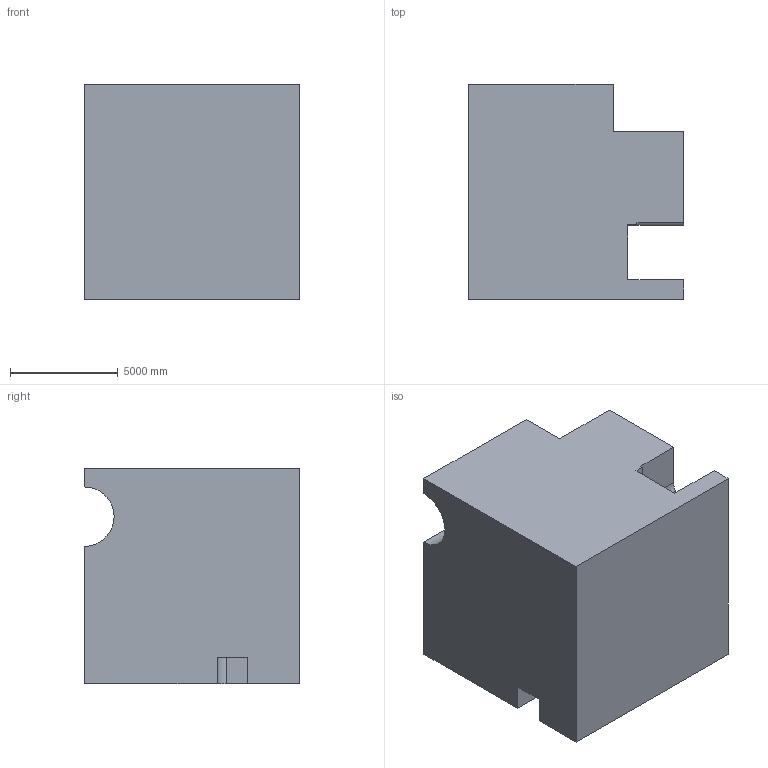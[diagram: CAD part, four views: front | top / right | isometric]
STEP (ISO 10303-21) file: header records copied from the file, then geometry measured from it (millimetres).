
FILE_DESCRIPTION (( 'STEP AP203' ), '1' );
FILE_NAME ('515.STEP', '2022-07-29T11:36:14', ( 'user' ), ( '' ), 'SwSTEP 2.0', 'SolidWorks 2021', '' );
FILE_SCHEMA (( 'CONFIG_CONTROL_DESIGN' ));
Length unit declared in the file: centimetre
Products named in the file (1): 515
Bounding box: 10000 x 10000 x 10000 mm (x, y, z)
Volume: 794023391979.9 mm3; surface area: 675894401.4 mm2
Topology: 1 solids, 1 shells, 27 faces, 75 edges, 50 vertices
Faces by surface type: plane 24, cylinder 3
Entity records: 932 total; most frequent: CARTESIAN_POINT 153, ORIENTED_EDGE 150, DIRECTION 137, EDGE_CURVE 75, VECTOR 69, LINE 69, VERTEX_POINT 50, AXIS2_PLACEMENT_3D 34
